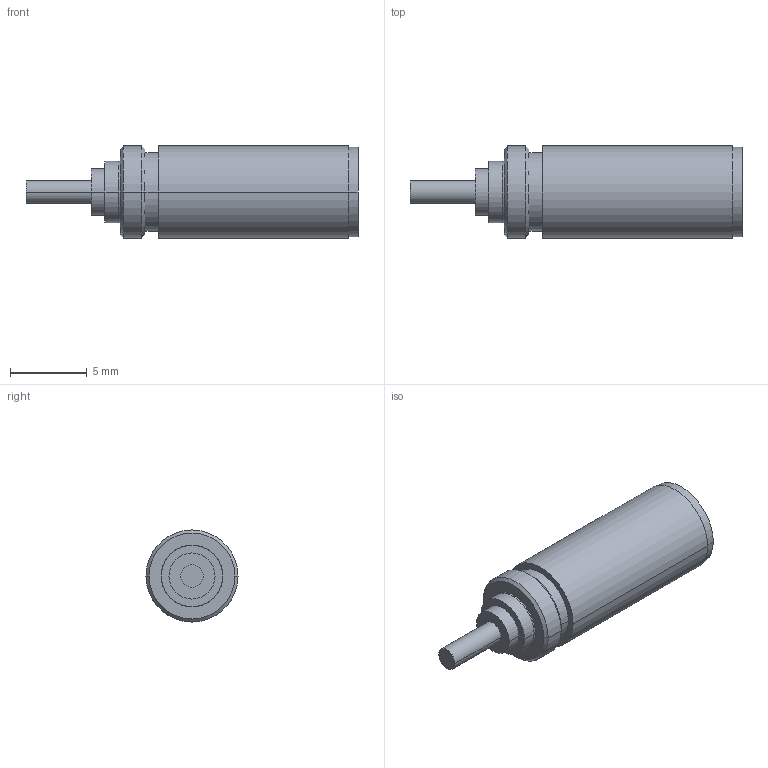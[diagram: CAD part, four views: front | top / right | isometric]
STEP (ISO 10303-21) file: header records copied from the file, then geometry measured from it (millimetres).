
FILE_DESCRIPTION((''),'2;1');
FILE_NAME('1928062','2016-10-04T',('mmagvisi'),(''),'CREO PARAMETRIC BY PTC INC, 2016050','CREO PARAMETRIC BY PTC INC, 2016050','');
FILE_SCHEMA(('CONFIG_CONTROL_DESIGN'));
Length unit declared in the file: millimetre
Products named in the file (1): 1928062
Bounding box: 21.65 x 6 x 6 mm (x, y, z)
Volume: 225.9 mm3; surface area: 593.6 mm2
Topology: 1 solids, 1 shells, 36 faces, 70 edges, 44 vertices
Faces by surface type: cylinder 18, plane 10, cone 8
Entity records: 1038 total; most frequent: DIRECTION 186, CARTESIAN_POINT 150, ORIENTED_EDGE 140, AXIS2_PLACEMENT_3D 80, EDGE_CURVE 70, COLOUR_RGB 58, VERTEX_POINT 44, EDGE_LOOP 44
